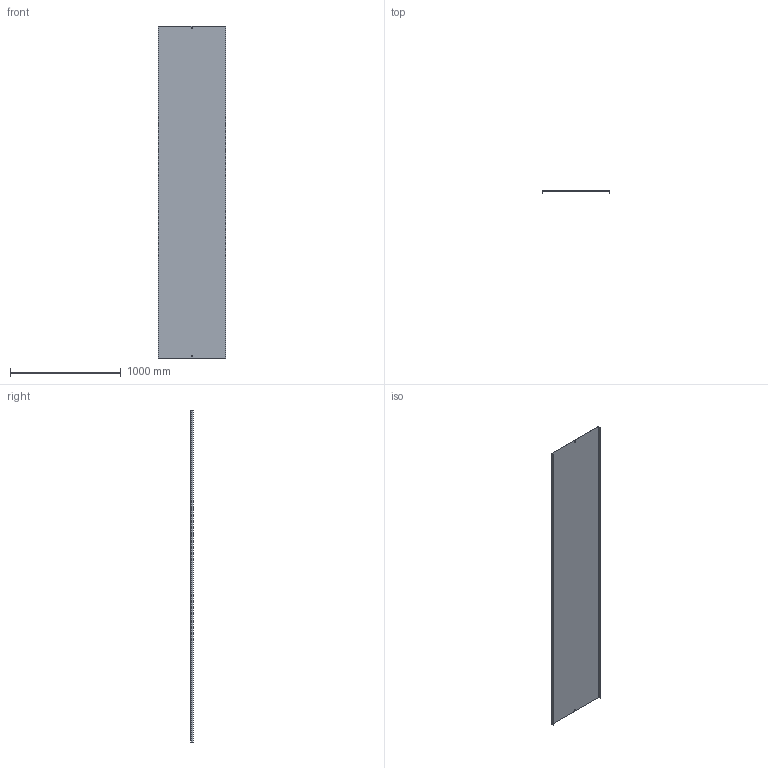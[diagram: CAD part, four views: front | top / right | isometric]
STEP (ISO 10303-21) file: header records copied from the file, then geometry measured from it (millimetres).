
FILE_DESCRIPTION (( 'STEP AP214' ), '1' );
FILE_NAME ('05G3R600.step', '2025-02-21T13:08:07', ( '' ), ( '' ), 'SwSTEP 2.0', 'SolidWorks 2023', '' );
FILE_SCHEMA (( 'AUTOMOTIVE_DESIGN' ));
Length unit declared in the file: millimetre
Products named in the file (1): 05G3R600
Bounding box: 607 x 20 x 3000 mm (x, y, z)
Volume: 2897824.5 mm3; surface area: 3874791 mm2
Topology: 1 solids, 1 shells, 18 faces, 48 edges, 32 vertices
Faces by surface type: plane 18
Entity records: 583 total; most frequent: CARTESIAN_POINT 99, ORIENTED_EDGE 96, DIRECTION 86, LINE 48, VECTOR 48, EDGE_CURVE 48, VERTEX_POINT 32, EDGE_LOOP 22
